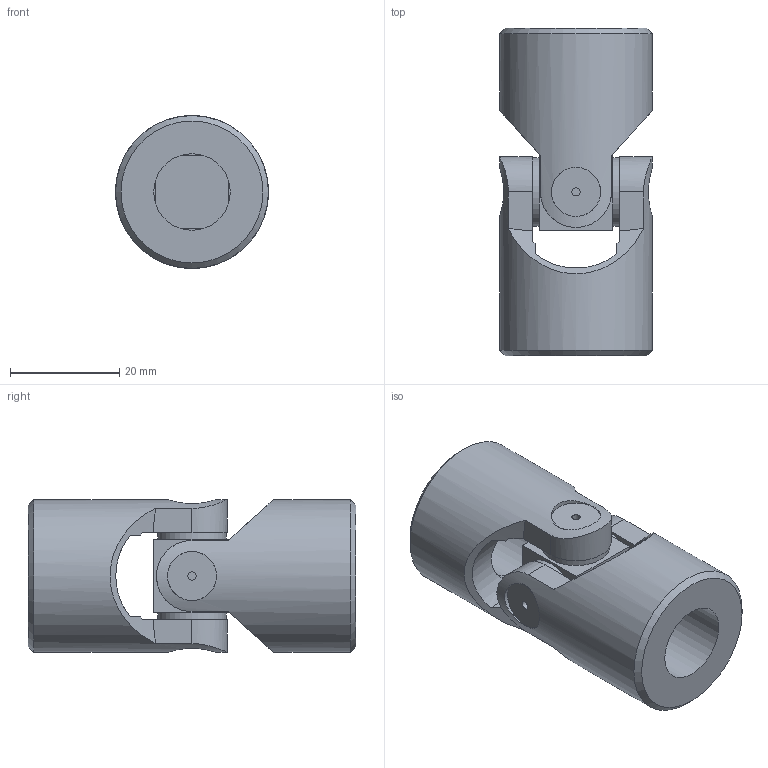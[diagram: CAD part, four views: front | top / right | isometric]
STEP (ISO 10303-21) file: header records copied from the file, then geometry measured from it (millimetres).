
FILE_DESCRIPTION(/* description */ ('EXTENSIBLE TRANSIMISSIONS Series G DIN 808 -2-'),/* implementation_level */ '2;1');
FILE_NAME(/* name */ '\\SRV2016\societa\Stefano\Disegni 3D\Dis. Clienti\0000Catalogo 3D\01Singoli G-GB\SG0S1400.stp',/* time_stamp */ '2021-11-08T15:37:59+01:00',/* author */ ('acquisti'),/* organization */ ('MARIOFERRI'),/* preprocessor_version */ 'ST-DEVELOPER v15.6',/* originating_system */ 'Autodesk Inventor 2015',/* authorisation */ '');
FILE_SCHEMA (('AUTOMOTIVE_DESIGN { 1 0 10303 214 3 1 1 }'));
Length unit declared in the file: millimetre
Products named in the file (3): 05G SFE; 05G MOS; Assieme1
Assembly tree (3 placements, depth 2):
  Assieme1
    05G SFE
    05G MOS  x2
Bounding box: 28 x 60 x 28 mm (x, y, z)
Volume: 24118 mm3; surface area: 10102.6 mm2
Topology: 3 solids, 3 shells, 72 faces, 172 edges, 116 vertices
Faces by surface type: plane 36, cylinder 22, cone 12, torus 2
Full cylindrical faces by diameter (mm): 1.5 x4, 9 x4, 12.5 x4, 14 x2, 14.5 x2, 28 x2
Entity records: 1373 total; most frequent: CARTESIAN_POINT 432, DIRECTION 184, ORIENTED_EDGE 160, EDGE_CURVE 80, AXIS2_PLACEMENT_3D 80, EDGE_LOOP 66, VERTEX_POINT 62, FACE_OUTER_BOUND 43
